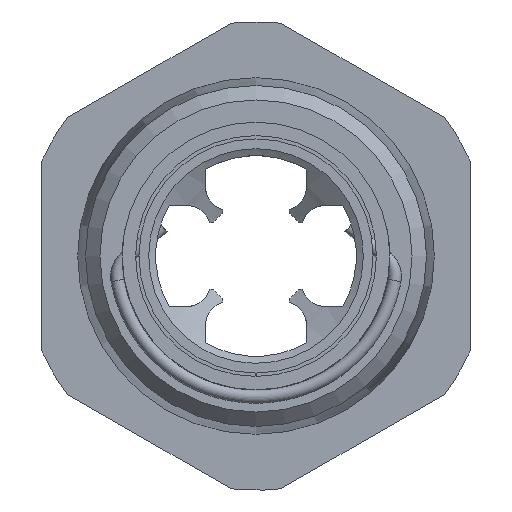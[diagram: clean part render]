
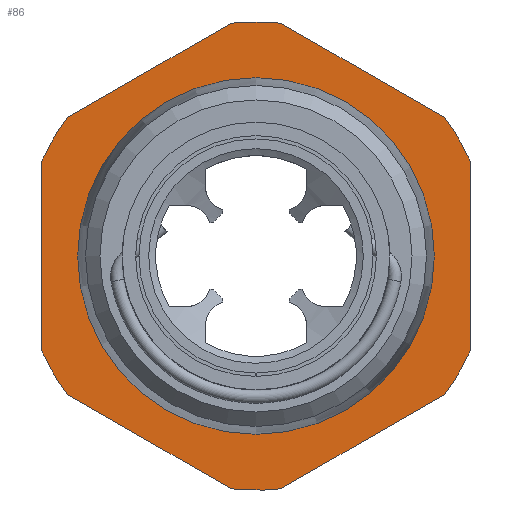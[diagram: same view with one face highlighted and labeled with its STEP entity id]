
A CAD part, front view. The second image highlights one B-rep face of the part: STEP entity #86.
In plain terms, the highlighted planar face has unit normal (0, -1, 0).
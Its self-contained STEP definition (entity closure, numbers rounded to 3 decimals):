
#86 = ADVANCED_FACE( '', ( #202, #203 ), #204, .F. );
#202 = FACE_BOUND( '', #451, .T. );
#203 = FACE_OUTER_BOUND( '', #452, .T. );
#204 = PLANE( '', #453 );
#451 = EDGE_LOOP( '', ( #782 ) );
#452 = EDGE_LOOP( '', ( #783, #784, #785, #786, #787, #788, #789, #790, #791, #792, #793, #794 ) );
#453 = AXIS2_PLACEMENT_3D( '', #795, #796, #797 );
#782 = ORIENTED_EDGE( '', *, *, #1532, .F. );
#783 = ORIENTED_EDGE( '', *, *, #1522, .T. );
#784 = ORIENTED_EDGE( '', *, *, #1533, .T. );
#785 = ORIENTED_EDGE( '', *, *, #1524, .T. );
#786 = ORIENTED_EDGE( '', *, *, #1534, .T. );
#787 = ORIENTED_EDGE( '', *, *, #1535, .T. );
#788 = ORIENTED_EDGE( '', *, *, #1536, .T. );
#789 = ORIENTED_EDGE( '', *, *, #1528, .T. );
#790 = ORIENTED_EDGE( '', *, *, #1537, .T. );
#791 = ORIENTED_EDGE( '', *, *, #1538, .T. );
#792 = ORIENTED_EDGE( '', *, *, #1539, .T. );
#793 = ORIENTED_EDGE( '', *, *, #1540, .T. );
#794 = ORIENTED_EDGE( '', *, *, #1541, .T. );
#795 = CARTESIAN_POINT( '', ( 17.5, 20., 0. ) );
#796 = DIRECTION( '', ( 0., 1., 0. ) );
#797 = DIRECTION( '', ( 0., 0., 1. ) );
#1522 = EDGE_CURVE( '', #1828, #1826, #1829, .T. );
#1524 = EDGE_CURVE( '', #1831, #1832, #1833, .T. );
#1528 = EDGE_CURVE( '', #1839, #1840, #1841, .T. );
#1532 = EDGE_CURVE( '', #1847, #1847, #1848, .F. );
#1533 = EDGE_CURVE( '', #1826, #1831, #1849, .T. );
#1534 = EDGE_CURVE( '', #1832, #1850, #1851, .T. );
#1535 = EDGE_CURVE( '', #1850, #1852, #1853, .T. );
#1536 = EDGE_CURVE( '', #1852, #1839, #1854, .T. );
#1537 = EDGE_CURVE( '', #1840, #1855, #1856, .T. );
#1538 = EDGE_CURVE( '', #1855, #1857, #1858, .T. );
#1539 = EDGE_CURVE( '', #1857, #1859, #1860, .T. );
#1540 = EDGE_CURVE( '', #1859, #1861, #1862, .T. );
#1541 = EDGE_CURVE( '', #1861, #1828, #1863, .T. );
#1826 = VERTEX_POINT( '', #2632 );
#1828 = VERTEX_POINT( '', #2635 );
#1829 = CIRCLE( '', #2636, 17.5 );
#1831 = VERTEX_POINT( '', #2639 );
#1832 = VERTEX_POINT( '', #2640 );
#1833 = CIRCLE( '', #2641, 17.5 );
#1839 = VERTEX_POINT( '', #2649 );
#1840 = VERTEX_POINT( '', #2650 );
#1841 = CIRCLE( '', #2651, 17.5 );
#1847 = VERTEX_POINT( '', #2659 );
#1848 = CIRCLE( '', #2660, 13.33 );
#1849 = LINE( '', #2661, #2662 );
#1850 = VERTEX_POINT( '', #2663 );
#1851 = LINE( '', #2664, #2665 );
#1852 = VERTEX_POINT( '', #2666 );
#1853 = CIRCLE( '', #2667, 17.5 );
#1854 = LINE( '', #2668, #2669 );
#1855 = VERTEX_POINT( '', #2670 );
#1856 = LINE( '', #2671, #2672 );
#1857 = VERTEX_POINT( '', #2673 );
#1858 = CIRCLE( '', #2674, 17.5 );
#1859 = VERTEX_POINT( '', #2675 );
#1860 = LINE( '', #2676, #2677 );
#1861 = VERTEX_POINT( '', #2678 );
#1862 = CIRCLE( '', #2679, 17.5 );
#1863 = LINE( '', #2680, #2681 );
#2632 = CARTESIAN_POINT( '', ( -16., 20., 7.089 ) );
#2635 = CARTESIAN_POINT( '', ( -14.139, 20., 10.312 ) );
#2636 = AXIS2_PLACEMENT_3D( '', #3863, #3864, #3865 );
#2639 = CARTESIAN_POINT( '', ( -16., 20., -7.089 ) );
#2640 = CARTESIAN_POINT( '', ( -14.139, 20., -10.312 ) );
#2641 = AXIS2_PLACEMENT_3D( '', #3867, #3868, #3869 );
#2649 = CARTESIAN_POINT( '', ( 14.139, 20., -10.312 ) );
#2650 = CARTESIAN_POINT( '', ( 16., 20., -7.089 ) );
#2651 = AXIS2_PLACEMENT_3D( '', #3875, #3876, #3877 );
#2659 = CARTESIAN_POINT( '', ( 0., 20., 13.33 ) );
#2660 = AXIS2_PLACEMENT_3D( '', #3883, #3884, #3885 );
#2661 = CARTESIAN_POINT( '', ( -16., 20., 0. ) );
#2662 = VECTOR( '', #3886, 1000. );
#2663 = CARTESIAN_POINT( '', ( -1.861, 20., -17.401 ) );
#2664 = CARTESIAN_POINT( '', ( 5.125, 20., -21.434 ) );
#2665 = VECTOR( '', #3887, 1000. );
#2666 = CARTESIAN_POINT( '', ( 1.861, 20., -17.401 ) );
#2667 = AXIS2_PLACEMENT_3D( '', #3888, #3889, #3890 );
#2668 = CARTESIAN_POINT( '', ( 21.125, 20., -6.279 ) );
#2669 = VECTOR( '', #3891, 1000. );
#2670 = CARTESIAN_POINT( '', ( 16., 20., 7.089 ) );
#2671 = CARTESIAN_POINT( '', ( 16., 20., 0. ) );
#2672 = VECTOR( '', #3892, 1000. );
#2673 = CARTESIAN_POINT( '', ( 14.139, 20., 10.312 ) );
#2674 = AXIS2_PLACEMENT_3D( '', #3893, #3894, #3895 );
#2675 = CARTESIAN_POINT( '', ( 1.861, 20., 17.401 ) );
#2676 = CARTESIAN_POINT( '', ( 21.125, 20., 6.279 ) );
#2677 = VECTOR( '', #3896, 1000. );
#2678 = CARTESIAN_POINT( '', ( -1.861, 20., 17.401 ) );
#2679 = AXIS2_PLACEMENT_3D( '', #3897, #3898, #3899 );
#2680 = CARTESIAN_POINT( '', ( 5.125, 20., 21.434 ) );
#2681 = VECTOR( '', #3900, 1000. );
#3863 = CARTESIAN_POINT( '', ( 0., 20., 0. ) );
#3864 = DIRECTION( '', ( 0., -1., 0. ) );
#3865 = DIRECTION( '', ( 0., 0., -1. ) );
#3867 = CARTESIAN_POINT( '', ( 0., 20., 0. ) );
#3868 = DIRECTION( '', ( 0., -1., 0. ) );
#3869 = DIRECTION( '', ( 0., 0., -1. ) );
#3875 = CARTESIAN_POINT( '', ( 0., 20., 0. ) );
#3876 = DIRECTION( '', ( 0., -1., 0. ) );
#3877 = DIRECTION( '', ( 0., 0., -1. ) );
#3883 = CARTESIAN_POINT( '', ( 0., 20., 0. ) );
#3884 = DIRECTION( '', ( 0., 1., 0. ) );
#3885 = DIRECTION( '', ( 0., 0., 1. ) );
#3886 = DIRECTION( '', ( 0., 0., -1. ) );
#3887 = DIRECTION( '', ( 0.866, 0., -0.5 ) );
#3888 = CARTESIAN_POINT( '', ( 0., 20., 0. ) );
#3889 = DIRECTION( '', ( 0., -1., 0. ) );
#3890 = DIRECTION( '', ( 0., 0., -1. ) );
#3891 = DIRECTION( '', ( 0.866, 0., 0.5 ) );
#3892 = DIRECTION( '', ( 0., 0., 1. ) );
#3893 = CARTESIAN_POINT( '', ( 0., 20., 0. ) );
#3894 = DIRECTION( '', ( 0., -1., 0. ) );
#3895 = DIRECTION( '', ( 0., 0., -1. ) );
#3896 = DIRECTION( '', ( -0.866, 0., 0.5 ) );
#3897 = CARTESIAN_POINT( '', ( 0., 20., 0. ) );
#3898 = DIRECTION( '', ( 0., -1., 0. ) );
#3899 = DIRECTION( '', ( 0., 0., -1. ) );
#3900 = DIRECTION( '', ( -0.866, 0., -0.5 ) );
